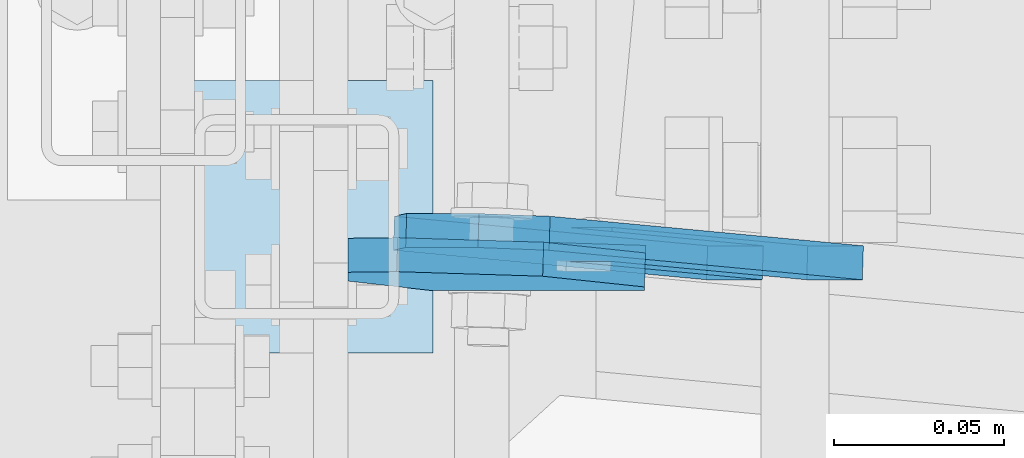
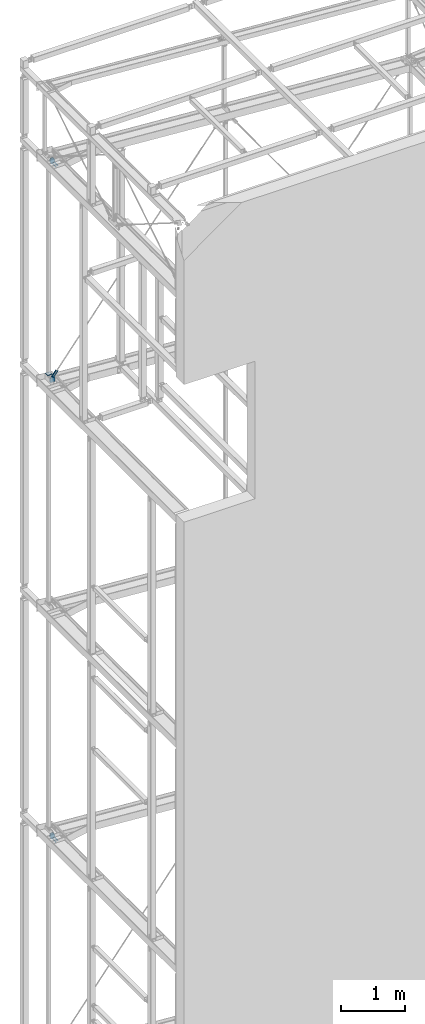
# One storey, part 138 of 271: 7 plates, 7 elements without a shape of their own.
"""IFC2X3 building model written with IfcOpenShell, lengths in millimetres."""

from ifc_helpers import new_model, si_unit, frame, origin_with_axes, place, context, subcontext, project, spatial, polyline, outline, extrude, boolean, material, type_object, element, aggregate, save


model = new_model("IFC2X3")

# Units and contexts
model_context = context("Model", 3, precision=1e-05, world=origin_with_axes())
body_context = subcontext(model_context, "Body", "Model", "MODEL_VIEW")
ifc_project = project(units=[si_unit("LENGTHUNIT", "METRE", prefix="MILLI"), si_unit("AREAUNIT", "SQUARE_METRE"), si_unit("VOLUMEUNIT", "CUBIC_METRE"), si_unit("MASSUNIT", "GRAM", prefix="KILO"), si_unit("TIMEUNIT", "SECOND"), si_unit("PLANEANGLEUNIT", "RADIAN"), si_unit("SOLIDANGLEUNIT", "STERADIAN"), si_unit("THERMODYNAMICTEMPERATUREUNIT", "DEGREE_CELSIUS"), si_unit("LUMINOUSINTENSITYUNIT", "LUMEN")], contexts=[model_context])

# Site, building, storey
site_placement = place(None, origin_with_axes())
site = spatial("IfcSite", under=ifc_project, at=site_placement, Name="Undefined", CompositionType="ELEMENT")
building_placement = place(site_placement, origin_with_axes())
building = spatial("IfcBuilding", under=site, at=building_placement, Name="Undefined", CompositionType="ELEMENT")
storey_placement = place(building_placement, origin_with_axes())
storey = spatial("IfcBuildingStorey", under=building, at=storey_placement, Name="Undefined", CompositionType="ELEMENT", Elevation=0.0)

# Assembly, plate
assembly_1_placement = place(storey_placement, origin_with_axes())
assembly_1 = element("IfcElementAssembly", 1, at=assembly_1_placement, inside=storey, AssemblyPlace="NOTDEFINED", PredefinedType="RIGID_FRAME")
ifc_material = material(Name="STEEL/S355JR")
plate_type_1 = type_object("IfcPlateType", Name="BL8*80", PredefinedType="NOTDEFINED")
plate_1_placement = place(assembly_1_placement, frame((162.999999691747, 4332.19355050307, 14501.649999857), z_axis=(0.0, 0.0, -1.0), x_axis=(0.0, -1.0, 0.0)))
plate_1 = element("IfcPlate", 2, at=plate_1_placement, type_object=plate_type_1, material=ifc_material, Name="BLACHA", ObjectType="BL8*80", context=body_context, shape_type="SweptSolid", body=[
    extrude(outline(polyline([(0.0, 0.0), (80.0, 0.0), (80.0, 80.0), (0.0, 80.0), (0.0, 0.0)])), frame((0.0, 0.0, -4.0), z_axis=(0.0, 0.0, 1.0), x_axis=(1.0, 0.0, 0.0)), (0.0, 0.0, 1.0), 8.0),
])
aggregate(assembly_1, [plate_1])

assembly_2_placement = place(storey_placement, origin_with_axes())
assembly_2 = element("IfcElementAssembly", 3, at=assembly_2_placement, inside=storey, AssemblyPlace="NOTDEFINED", PredefinedType="RIGID_FRAME")
plate_type_2 = type_object("IfcPlateType", Name="BL10*56", PredefinedType="NOTDEFINED")
plate_2_placement = place(assembly_2_placement, frame((151.534947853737, 4287.34987446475, 18555.2754358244), z_axis=(0.0312255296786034, 0.998530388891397, -0.0442947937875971), x_axis=(0.171120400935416, 0.038321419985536, 0.984504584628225)))
plate_2 = element("IfcPlate", 4, at=plate_2_placement, type_object=plate_type_2, material=ifc_material, Name="BLACHA", ObjectType="BL10*56", context=body_context, shape_type="SweptSolid", body=[
    extrude(outline(polyline([(0.0, 0.0), (21.2132034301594, 1.09139364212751e-11), (39.5979804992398, 18.3847751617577), (39.5979804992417, 39.5979804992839), (-73.5391082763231, 152.735061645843), (-87.6812438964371, 138.592926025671), (-16.9705638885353, 67.882247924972), (-28.2842712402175, 56.5685424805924), (-98.9949493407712, 127.279220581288), (-113.137084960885, 113.137084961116), (0.0, 0.0)])), frame((0.0, 0.0, -5.0), z_axis=(0.0, 0.0, 1.0), x_axis=(1.0, 0.0, 0.0)), (0.0, 0.0, 1.0), 10.0),
])
aggregate(assembly_2, [plate_2])

assembly_3_placement = place(storey_placement, origin_with_axes())
assembly_3 = element("IfcElementAssembly", 5, at=assembly_3_placement, inside=storey, AssemblyPlace="NOTDEFINED", PredefinedType="RIGID_FRAME")
plate_3_placement = place(assembly_3_placement, frame((197.305285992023, 4287.34987446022, 14381.1588534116), z_axis=(0.0312255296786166, 0.998530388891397, 0.0442947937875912), x_axis=(-0.984755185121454, 0.0383214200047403, -0.169672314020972)))
plate_3 = element("IfcPlate", 6, at=plate_3_placement, type_object=plate_type_2, material=ifc_material, Name="BLACHA", ObjectType="BL10*56", context=body_context, shape_type="SweptSolid", body=[
    extrude(outline(polyline([(0.0, 0.0), (21.2132034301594, 1.09139364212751e-11), (39.5979804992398, 18.3847751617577), (39.5979804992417, 39.5979804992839), (-73.5391082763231, 152.735061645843), (-87.6812438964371, 138.592926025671), (-16.9705638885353, 67.882247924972), (-28.2842712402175, 56.5685424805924), (-98.9949493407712, 127.279220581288), (-113.137084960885, 113.137084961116), (0.0, 0.0)])), frame((0.0, 0.0, -5.0), z_axis=(0.0, 0.0, 1.0), x_axis=(1.0, 0.0, 0.0)), (0.0, 0.0, 1.0), 10.0),
])
aggregate(assembly_3, [plate_3])

assembly_4_placement = place(storey_placement, origin_with_axes())
assembly_4 = element("IfcElementAssembly", 7, at=assembly_4_placement, inside=storey, AssemblyPlace="NOTDEFINED", PredefinedType="RIGID_FRAME")
plate_4_placement = place(assembly_4_placement, frame((151.534947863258, 4287.34987446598, 5595.27543582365), z_axis=(0.0312255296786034, 0.998530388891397, -0.0442947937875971), x_axis=(0.171120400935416, 0.038321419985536, 0.984504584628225)))
plate_4 = element("IfcPlate", 8, at=plate_4_placement, type_object=plate_type_2, material=ifc_material, Name="BLACHA", ObjectType="BL10*56", context=body_context, shape_type="SweptSolid", body=[
    extrude(outline(polyline([(0.0, 0.0), (21.2132034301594, 1.09139364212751e-11), (39.5979804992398, 18.3847751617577), (39.5979804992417, 39.5979804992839), (-73.5391082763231, 152.735061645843), (-87.6812438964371, 138.592926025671), (-16.9705638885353, 67.882247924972), (-28.2842712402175, 56.5685424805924), (-98.9949493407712, 127.279220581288), (-113.137084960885, 113.137084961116), (0.0, 0.0)])), frame((0.0, 0.0, -5.0), z_axis=(0.0, 0.0, 1.0), x_axis=(1.0, 0.0, 0.0)), (0.0, 0.0, 1.0), 10.0),
])
aggregate(assembly_4, [plate_4])

assembly_5_placement = place(storey_placement, origin_with_axes())
assembly_5 = element("IfcElementAssembly", 9, at=assembly_5_placement, inside=storey, AssemblyPlace="NOTDEFINED", PredefinedType="RIGID_FRAME")
plate_type_3 = type_object("IfcPlateType", Name="BL10*119", PredefinedType="NOTDEFINED")
plate_5_placement = place(assembly_5_placement, frame((99.0301211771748, 4282.74122226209, 18640.1077505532), z_axis=(0.0312255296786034, 0.998530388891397, -0.0442947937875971), x_axis=(0.999511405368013, -0.0312562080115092, 0.0)))
plate_5 = element("IfcPlate", 10, at=plate_5_placement, type_object=plate_type_3, material=ifc_material, Name="BLACHA", ObjectType="BL10*119", context=body_context, shape_type="CSG", body=[
    boolean("DIFFERENCE", boolean("DIFFERENCE", extrude(outline(polyline([(0.0, 0.0), (96.4382629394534, 1.38739788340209e-12), (126.438262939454, 50.0000000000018), (126.438262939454, 75.0000000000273), (64.3517227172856, 118.832199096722), (0.0, 0.0)])), frame((0.0, 0.0, -5.0), z_axis=(0.0, 0.0, 1.0), x_axis=(1.0, 0.0, 0.0)), (0.0, 0.0, 1.0), 10.0), extrude(outline(polyline([(0.0, 0.0), (15.0, -1.59872115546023e-14), (0.0207920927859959, 15.0207634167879), (0.0207920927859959, 15.0207634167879), (0.0, 0.0)])), frame((38.83227707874, -0.322875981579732, 5.00000006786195), z_axis=(0.0, 0.0, -1.0), x_axis=(0.00138516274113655, 0.99999904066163, 4.69801683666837e-10)), (0.0, 0.0, 1.0), 10.0)), extrude(outline(polyline([(0.0, 0.0), (200.0, 0.0), (200.0, 110.0), (160.0, 150.0), (40.0, 150.0), (0.0, 110.0), (0.0, 0.0)])), frame((41.7810149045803, 3.01355294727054, -89.2394835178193), z_axis=(-0.999511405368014, 0.0013844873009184, -0.0312255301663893), x_axis=(-0.0312562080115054, -0.0442731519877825, 0.99853038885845)), (0.0, 0.0, 1.0), 100.0)),
])
aggregate(assembly_5, [plate_5])

assembly_6_placement = place(storey_placement, origin_with_axes())
assembly_6 = element("IfcElementAssembly", 11, at=assembly_6_placement, inside=storey, AssemblyPlace="NOTDEFINED", PredefinedType="RIGID_FRAME")
plate_6_placement = place(assembly_6_placement, frame((225.406606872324, 4278.7892416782, 14328.5922492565), z_axis=(0.0312255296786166, 0.998530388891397, 0.0442947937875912), x_axis=(-0.999511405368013, 0.0312562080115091, 0.0)))
plate_6 = element("IfcPlate", 12, at=plate_6_placement, type_object=plate_type_3, material=ifc_material, Name="BLACHA", ObjectType="BL10*119", context=body_context, shape_type="CSG", body=[
    boolean("DIFFERENCE", boolean("DIFFERENCE", extrude(outline(polyline([(0.0, 0.0), (126.438262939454, 3.5313973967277e-12), (62.0865364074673, 118.832199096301), (-3.89910326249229e-12, 74.99999999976), (0.0, 0.0)])), frame((0.0, 0.0, -5.0), z_axis=(0.0, 0.0, 1.0), x_axis=(1.0, 0.0, 0.0)), (0.0, 0.0, 1.0), 10.0), extrude(outline(polyline([(0.0, 0.0), (15.0, -1.59872115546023e-14), (0.0207920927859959, 15.0207634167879), (0.0207920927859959, 15.0207634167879), (0.0, 0.0)])), frame((87.6059856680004, -0.322875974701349, -4.99999998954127), z_axis=(0.0, 0.0, 1.0), x_axis=(-0.00138516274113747, 0.99999904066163, 4.69774913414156e-10)), (0.0, 0.0, 1.0), 10.0)), extrude(outline(polyline([(0.0, 0.0), (200.0, 0.0), (200.0, 110.0), (160.0, 150.0), (40.0, 150.0), (0.0, 110.0), (0.0, 0.0)])), frame((90.9084894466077, -5.84107744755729, 110.466594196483), z_axis=(0.999511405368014, 0.00138448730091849, -0.0312255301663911), x_axis=(-0.0312562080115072, 0.0442731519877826, -0.99853038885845)), (0.0, 0.0, 1.0), 100.0)),
])
aggregate(assembly_6, [plate_6])

assembly_7_placement = place(storey_placement, origin_with_axes())
assembly_7 = element("IfcElementAssembly", 13, at=assembly_7_placement, inside=storey, AssemblyPlace="NOTDEFINED", PredefinedType="RIGID_FRAME")
plate_7_placement = place(assembly_7_placement, frame((99.0301211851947, 4282.74122226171, 5680.10775055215), z_axis=(0.0312255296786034, 0.998530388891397, -0.0442947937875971), x_axis=(0.999511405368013, -0.0312562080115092, 0.0)))
plate_7 = element("IfcPlate", 14, at=plate_7_placement, type_object=plate_type_3, material=ifc_material, Name="BLACHA", ObjectType="BL10*119", context=body_context, shape_type="CSG", body=[
    boolean("DIFFERENCE", boolean("DIFFERENCE", extrude(outline(polyline([(0.0, 0.0), (96.4382629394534, 1.38739788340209e-12), (126.438262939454, 50.0000000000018), (126.438262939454, 75.0000000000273), (64.3517227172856, 118.832199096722), (0.0, 0.0)])), frame((0.0, 0.0, -5.0), z_axis=(0.0, 0.0, 1.0), x_axis=(1.0, 0.0, 0.0)), (0.0, 0.0, 1.0), 10.0), extrude(outline(polyline([(0.0, 0.0), (15.0, -1.59872115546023e-14), (0.0207920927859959, 15.0207634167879), (0.0207920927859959, 15.0207634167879), (0.0, 0.0)])), frame((38.83227707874, -0.322875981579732, 5.00000006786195), z_axis=(0.0, 0.0, -1.0), x_axis=(0.00138516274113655, 0.99999904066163, 4.69801683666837e-10)), (0.0, 0.0, 1.0), 10.0)), extrude(outline(polyline([(0.0, 0.0), (253.0, 0.0), (253.0, 110.0), (213.0, 150.0), (40.0, 150.0), (0.0, 110.0), (0.0, 0.0)])), frame((43.0000070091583, 4.74020587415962, -128.182168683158), z_axis=(-0.999511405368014, 0.0013844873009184, -0.0312255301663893), x_axis=(-0.0312562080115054, -0.0442731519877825, 0.99853038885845)), (0.0, 0.0, 1.0), 100.0)),
])
aggregate(assembly_7, [plate_7])

save(model, "model.ifc")
